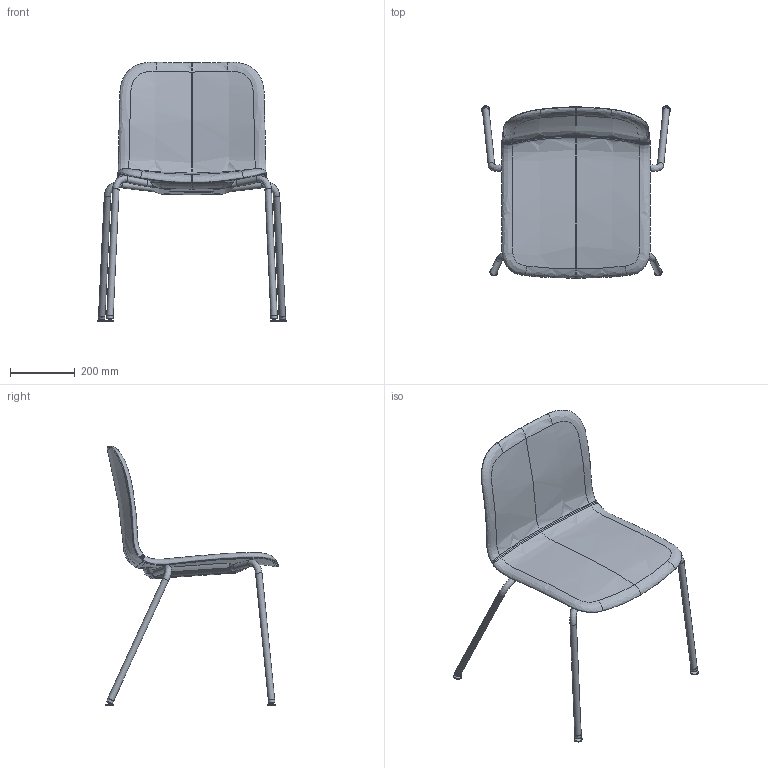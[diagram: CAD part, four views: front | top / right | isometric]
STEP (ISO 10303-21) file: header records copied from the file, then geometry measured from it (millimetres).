
FILE_DESCRIPTION(/* description */ (''),/* implementation_level */ '2;1');
FILE_NAME(/* name */ 'Lambda LA4004-090',/* time_stamp */ '2024-03-04T14:57:01+01:00',/* author */ (''),/* organization */ (''),/* preprocessor_version */ 'ST-DEVELOPER v16.5',/* originating_system */ 'Rhino 7.35',/* authorisation */ '');
FILE_SCHEMA (('CONFIG_CONTROL_DESIGN'));
Length unit declared in the file: millimetre
Products named in the file (1): Document
Bounding box: 583.67 x 534 x 803.72 mm (x, y, z)
Volume: 18060.8 mm3; surface area: 1064640.5 mm2
Topology: 8 solids, 21 shells, 922 faces, 2419 edges, 1604 vertices
Faces by surface type: plane 434, bspline 376, cylinder 112
Full cylindrical faces by diameter (mm): 20 x18, 24.5 x4
Entity records: 85534 total; most frequent: CARTESIAN_POINT 69439, ORIENTED_EDGE 4756, EDGE_CURVE 2412, B_SPLINE_CURVE_WITH_KNOTS 2275, VERTEX_POINT 1598, EDGE_LOOP 1007, ADVANCED_FACE 922, FACE_OUTER_BOUND 922
